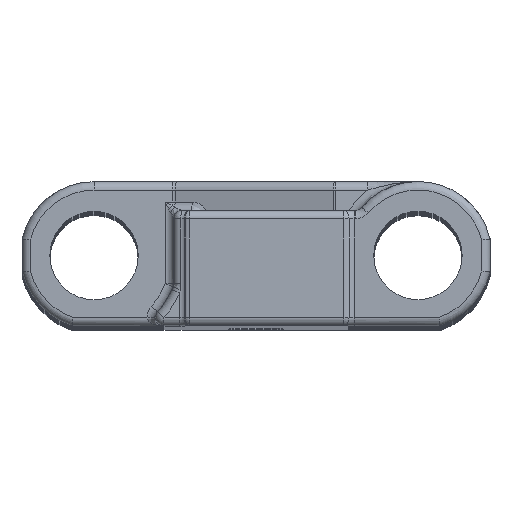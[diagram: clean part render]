
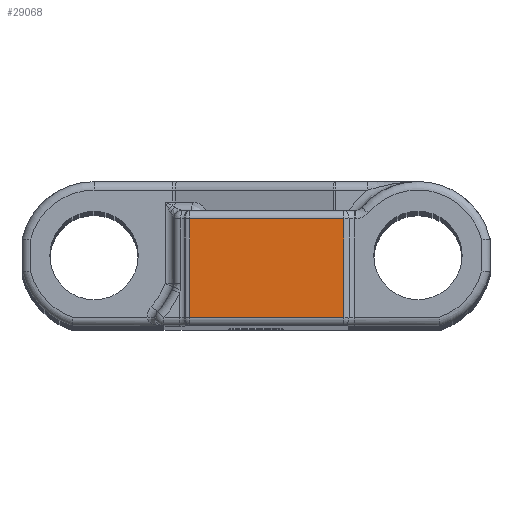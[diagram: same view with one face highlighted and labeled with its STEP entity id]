
A CAD part, top view. The second image highlights one B-rep face of the part: STEP entity #29068.
In plain terms, the highlighted planar face has unit normal (0, 0, 1).
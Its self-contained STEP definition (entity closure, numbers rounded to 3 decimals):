
#4889=DIRECTION('',(1.,0.,0.));
#4890=VECTOR('',#4889,9.067);
#4891=CARTESIAN_POINT('',(-3.892,-3.65,76.2));
#4892=LINE('',#4891,#4890);
#4893=DIRECTION('',(0.,-1.,0.));
#4894=VECTOR('',#4893,5.8);
#4895=CARTESIAN_POINT('',(-3.892,2.15,76.2));
#4896=LINE('',#4895,#4894);
#4897=DIRECTION('',(-1.,0.,0.));
#4898=VECTOR('',#4897,9.067);
#4899=CARTESIAN_POINT('',(5.175,2.15,76.2));
#4900=LINE('',#4899,#4898);
#4901=DIRECTION('',(0.,-1.,0.));
#4902=VECTOR('',#4901,5.8);
#4903=CARTESIAN_POINT('',(5.175,2.15,76.2));
#4904=LINE('',#4903,#4902);
#22054=CARTESIAN_POINT('',(5.175,-3.65,76.2));
#22055=VERTEX_POINT('',#22054);
#22056=CARTESIAN_POINT('',(-3.892,-3.65,76.2));
#22057=VERTEX_POINT('',#22056);
#22086=CARTESIAN_POINT('',(5.175,2.15,76.2));
#22087=VERTEX_POINT('',#22086);
#22092=CARTESIAN_POINT('',(-3.892,2.15,76.2));
#22093=VERTEX_POINT('',#22092);
#29055=CARTESIAN_POINT('',(-4.043,-4.15,76.2));
#29056=DIRECTION('',(0.,0.,1.));
#29057=DIRECTION('',(1.,0.,0.));
#29058=AXIS2_PLACEMENT_3D('',#29055,#29056,#29057);
#29059=PLANE('',#29058);
#29061=ORIENTED_EDGE('',*,*,#29060,.F.);
#29062=ORIENTED_EDGE('',*,*,#29024,.F.);
#29063=ORIENTED_EDGE('',*,*,#29046,.F.);
#29065=ORIENTED_EDGE('',*,*,#29064,.T.);
#29066=EDGE_LOOP('',(#29061,#29062,#29063,#29065));
#29067=FACE_OUTER_BOUND('',#29066,.F.);
#29068=ADVANCED_FACE('',(#29067),#29059,.T.);
#29024=EDGE_CURVE('',#22093,#22057,#4896,.T.);
#29046=EDGE_CURVE('',#22087,#22093,#4900,.T.);
#29060=EDGE_CURVE('',#22057,#22055,#4892,.T.);
#29064=EDGE_CURVE('',#22087,#22055,#4904,.T.);
